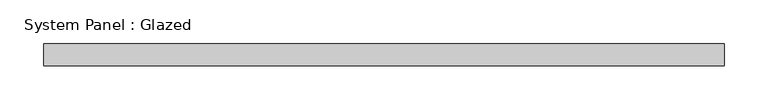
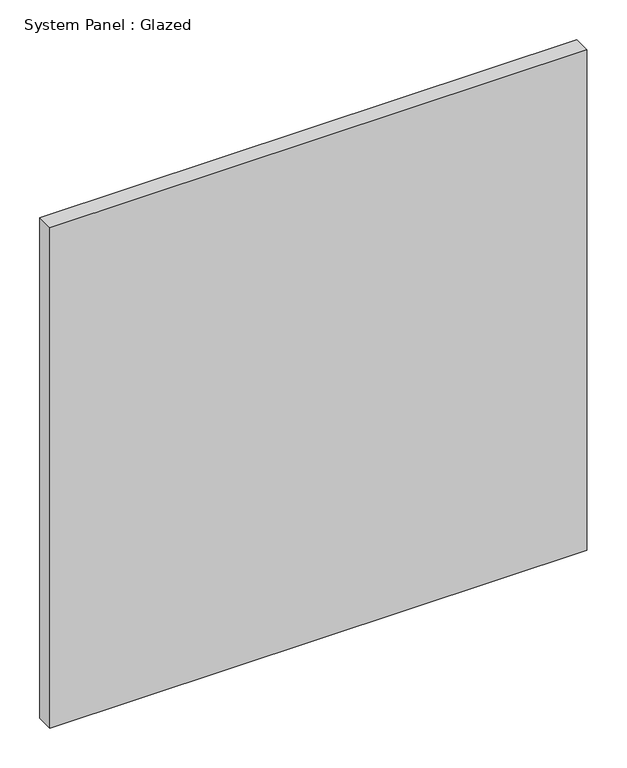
"""IFC4 building model written with IfcOpenShell, lengths in millimetres: plate geometry, System Panel : Glazed."""

from ifc_helpers import new_model, si_unit, origin, origin_with_axes, place, context, project, spatial, polyline, outline, extrude, source, transform, mapped, element, save


def system_panel_glazed_8d2e26c9(model_context):
    return source(origin(), model_context, "Body", "SweptSolid", [
        extrude(outline(polyline([(387.9288593, 24.5), (-387.9288593, 24.5), (-387.9288593, 49.5), (387.9288593, 49.5), (387.9288593, 24.5)])), origin_with_axes(), (0.0, 0.0, 1.0), 765.0),
    ])


if __name__ == "__main__":
    model = new_model("IFC4")
    model_context = context("Model", 3, world=origin())
    ifc_project = project(units=[si_unit("LENGTHUNIT", "METRE", prefix="MILLI")], contexts=[model_context])
    site = spatial("IfcSite", under=ifc_project)
    building = spatial("IfcBuilding", under=site)
    placement = place(None, origin())
    system_panel_glazed_shape = system_panel_glazed_8d2e26c9(model_context)
    element("IfcPlate", 1, ObjectType="System Panel : Glazed", at=placement, inside=building, context=model_context, shape_type="MappedRepresentation", body=[
        mapped(system_panel_glazed_shape, transform((0.0, 0.0, 0.0), x_axis=(1.0, 0.0, 0.0), y_axis=(0.0, 1.0, 0.0), z_axis=(0.0, 0.0, 1.0))),
    ])
    save(model, "model.ifc")
